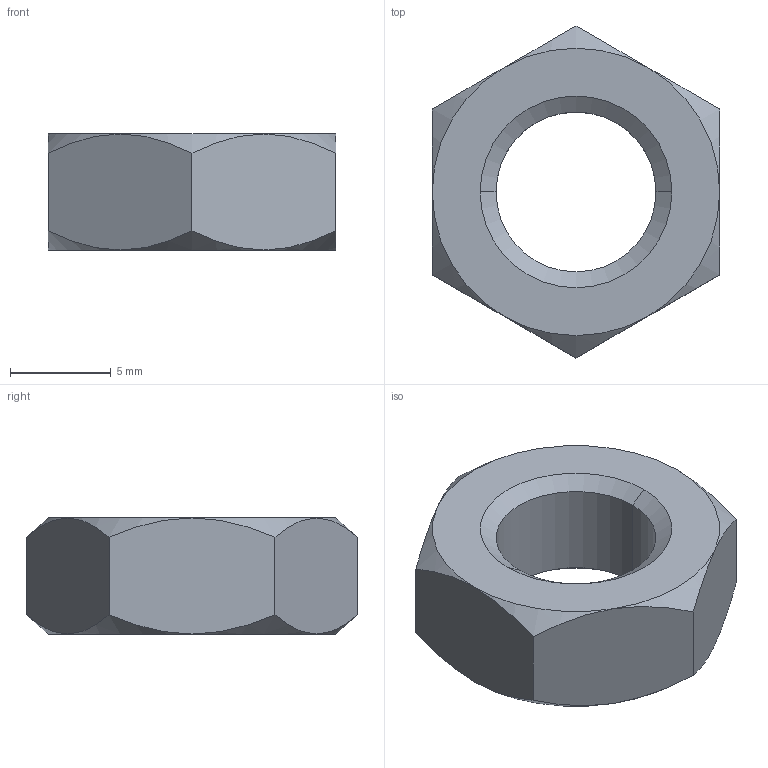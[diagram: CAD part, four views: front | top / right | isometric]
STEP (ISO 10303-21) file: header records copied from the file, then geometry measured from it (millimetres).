
FILE_DESCRIPTION (( 'STEP AP203' ), '1' );
FILE_NAME ('LED-10W-6R-HT-113 Step.STEP', '2013-10-24T16:24:42', ( 'Rob' ), ( '' ), 'SwSTEP 2.0', 'SolidWorks 2013', '' );
FILE_SCHEMA (( 'CONFIG_CONTROL_DESIGN' ));
Length unit declared in the file: inch
Products named in the file (1): LED-10W-6R-HT-113 Step
Bounding box: 14.27 x 16.48 x 5.77 mm (x, y, z)
Volume: 710.5 mm3; surface area: 643.1 mm2
Topology: 1 solids, 1 shells, 28 faces, 60 edges, 34 vertices
Faces by surface type: cone 16, plane 8, cylinder 4
Entity records: 913 total; most frequent: CARTESIAN_POINT 259, ORIENTED_EDGE 120, DIRECTION 116, EDGE_CURVE 60, AXIS2_PLACEMENT_3D 51, VERTEX_POINT 34, EDGE_LOOP 30, FACE_OUTER_BOUND 28
